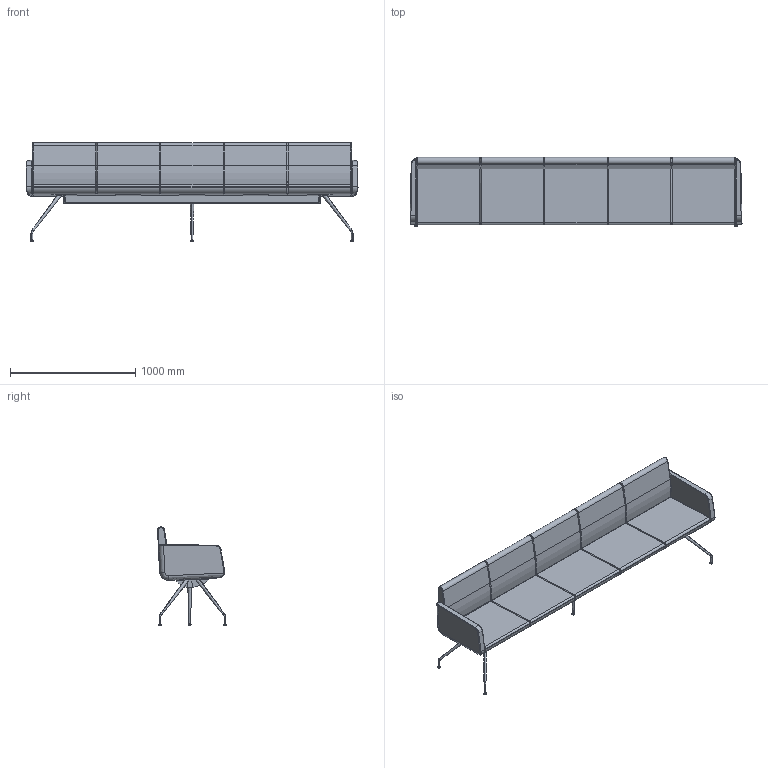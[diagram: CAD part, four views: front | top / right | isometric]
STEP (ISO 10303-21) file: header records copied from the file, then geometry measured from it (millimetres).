
FILE_DESCRIPTION(/* description */ (''),/* implementation_level */ '2;1');
FILE_NAME(/* name */ 'DELTA5~1',/* time_stamp */ '2016-06-16T16:33:53+02:00',/* author */ (''),/* organization */ (''),/* preprocessor_version */ 'ST-DEVELOPER v15',/* originating_system */ '',/* authorisation */ '');
FILE_SCHEMA (('CONFIG_CONTROL_DESIGN'));
Length unit declared in the file: millimetre
Products named in the file (1): Document
Bounding box: 2653.67 x 551 x 785.18 mm (x, y, z)
Volume: 165855965 mm3; surface area: 6974442.3 mm2
Topology: 14 solids, 25 shells, 375 faces, 836 edges, 500 vertices
Faces by surface type: bspline 321, plane 54
Entity records: 12240 total; most frequent: CARTESIAN_POINT 7736, ORIENTED_EDGE 1616, EDGE_CURVE 831, VERTEX_POINT 494, EDGE_LOOP 380, ADVANCED_FACE 375, FACE_OUTER_BOUND 375, B_SPLINE_CURVE_WITH_KNOTS 107
